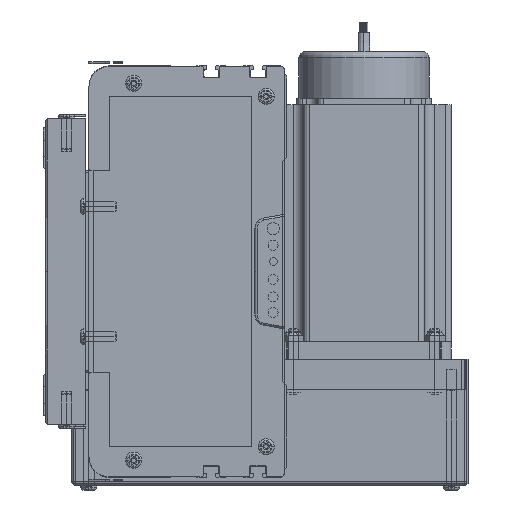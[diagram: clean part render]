
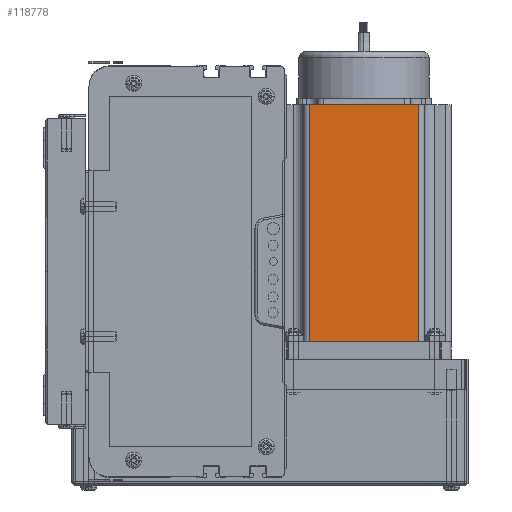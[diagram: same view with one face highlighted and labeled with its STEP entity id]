
A CAD part, left-side view. The second image highlights one B-rep face of the part: STEP entity #118778.
In plain terms, the highlighted planar face has unit normal (-1, 0, 0) as drawn and (0, -1, 0) by its records, which use the part's own axes.
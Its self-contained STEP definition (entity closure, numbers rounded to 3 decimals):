
#93993 = DIRECTION ( 'NONE',  ( 1., 0., 0. ) ) ;
#93996 = VECTOR ( 'NONE', #93993, 1000. ) ;
#93997 = CARTESIAN_POINT ( 'NONE',  ( 0., 0., 0. ) ) ;
#94005 = DIRECTION ( 'NONE',  ( 0., 0., -1. ) ) ;
#94006 = VECTOR ( 'NONE', #94005, 1000. ) ;
#94011 = LINE ( 'NONE', #94012, #94006 ) ;
#94012 = CARTESIAN_POINT ( 'NONE',  ( 16.16, 0., 116.5 ) ) ;
#94034 = LINE ( 'NONE', #93997, #93996 ) ;
#94194 = CARTESIAN_POINT ( 'NONE',  ( 69.74, 0., 0. ) ) ;
#94464 = CARTESIAN_POINT ( 'NONE',  ( 16.16, 0., 116.5 ) ) ;
#94475 = CARTESIAN_POINT ( 'NONE',  ( 0., 0., 116.5 ) ) ;
#94476 = LINE ( 'NONE', #94475, #94633 ) ;
#94631 = DIRECTION ( 'NONE',  ( 1., 0., 0. ) ) ;
#94633 = VECTOR ( 'NONE', #94631, 1000. ) ;
#95018 = CARTESIAN_POINT ( 'NONE',  ( 16.16, 0., 0. ) ) ;
#95609 = CARTESIAN_POINT ( 'NONE',  ( 69.74, 0., 116.5 ) ) ;
#95612 = LINE ( 'NONE', #95609, #95713 ) ;
#95669 = CARTESIAN_POINT ( 'NONE',  ( 0., 0., 116.5 ) ) ;
#95671 = PLANE ( 'NONE',  #95795 ) ;
#95712 = DIRECTION ( 'NONE',  ( 0., 0., 1. ) ) ;
#95713 = VECTOR ( 'NONE', #95712, 1000. ) ;
#95773 = DIRECTION ( 'NONE',  ( 0., 0., 1. ) ) ;
#95774 = DIRECTION ( 'NONE',  ( 0., 1., 0. ) ) ;
#95795 = AXIS2_PLACEMENT_3D ( 'NONE', #95669, #95774, #95773 ) ;
#95796 = FACE_OUTER_BOUND ( 'NONE', #118155, .T. ) ;
#96011 = CARTESIAN_POINT ( 'NONE',  ( 69.74, 0., 116.5 ) ) ;
#118108 = EDGE_CURVE ( 'NONE', #118402, #118596, #94011, .T. ) ;
#118110 = EDGE_CURVE ( 'NONE', #118596, #118220, #94034, .T. ) ;
#118155 = EDGE_LOOP ( 'NONE', ( #118781, #118726, #118531, #118628 ) ) ;
#118220 = VERTEX_POINT ( 'NONE', #94194 ) ;
#118402 = VERTEX_POINT ( 'NONE', #94464 ) ;
#118403 = EDGE_CURVE ( 'NONE', #118402, #118864, #94476, .T. ) ;
#118531 = ORIENTED_EDGE ( 'NONE', *, *, #118403, .F. ) ;
#118596 = VERTEX_POINT ( 'NONE', #95018 ) ;
#118628 = ORIENTED_EDGE ( 'NONE', *, *, #118108, .T. ) ;
#118726 = ORIENTED_EDGE ( 'NONE', *, *, #118730, .T. ) ;
#118730 = EDGE_CURVE ( 'NONE', #118220, #118864, #95612, .T. ) ;
#118778 = ADVANCED_FACE ( 'NONE', ( #95796 ), #95671, .F. ) ;
#118781 = ORIENTED_EDGE ( 'NONE', *, *, #118110, .T. ) ;
#118864 = VERTEX_POINT ( 'NONE', #96011 ) ;
